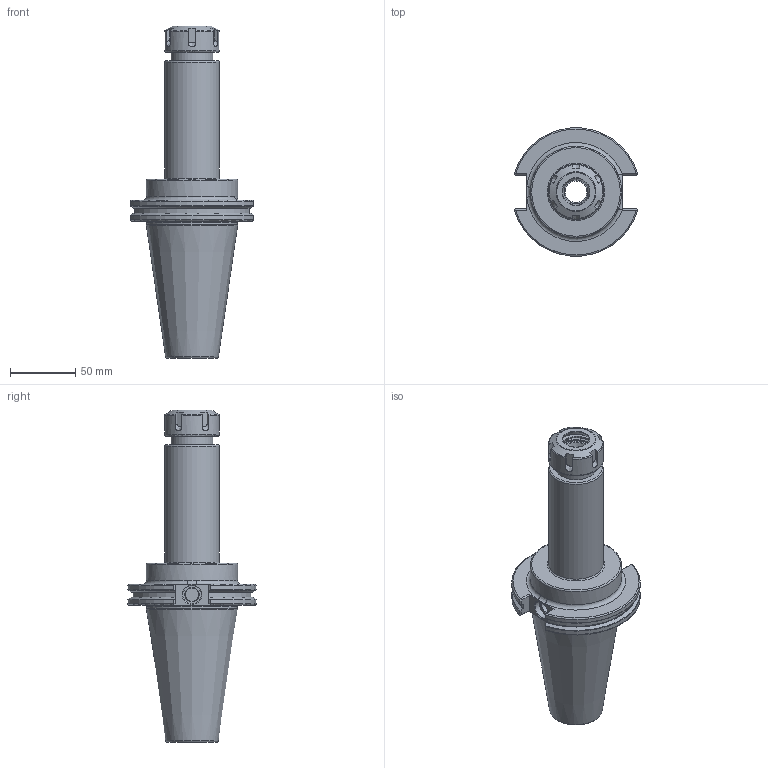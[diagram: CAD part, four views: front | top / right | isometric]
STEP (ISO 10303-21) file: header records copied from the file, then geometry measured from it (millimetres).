
FILE_DESCRIPTION(/* description */ (''),/* implementation_level */ '2;1');
FILE_NAME(/* name */ 'CAT50-ER25-6''''_asm1.prt.stp',/* time_stamp */ '2020-04-11T17:37:09+08:00',/* author */ (''),/* organization */ (''),/* preprocessor_version */ 'ST-DEVELOPER v16',/* originating_system */ 'SIEMENS PLM Software NX 10.0',/* authorisation */ '');
FILE_SCHEMA (('CONFIG_CONTROL_DESIGN'));
Length unit declared in the file: millimetre
Products named in the file (3): CAT50-ER25-6''; ER25UM压帽; CAT50-ER25-6''_asm1
Assembly tree (2 placements, depth 2):
  CAT50-ER25-6''_asm1
    ER25UM压帽
    CAT50-ER25-6''
Bounding box: 94.4 x 98.07 x 254 mm (x, y, z)
Volume: 495729.8 mm3; surface area: 74110.6 mm2
Topology: 2 solids, 2 shells, 150 faces, 400 edges, 265 vertices
Faces by surface type: plane 72, torus 27, cylinder 24, cone 19, bspline 8
Full cylindrical faces by diameter (mm): 10 x1, 14 x1, 16.5 x1, 18.3 x1, 20.7 x1, 22.225 x1, 25.7 x1, 26.19 x1, 29 x1, 30.376 x1, 30.5 x1, 32 x1, 32.5 x1, 42 x2, 69 x1, 69.85 x1
Entity records: 5358 total; most frequent: CARTESIAN_POINT 1564, ORIENTED_EDGE 732, DIRECTION 690, EDGE_CURVE 366, AXIS2_PLACEMENT_3D 274, VERTEX_POINT 259, EDGE_LOOP 193, ADVANCED_FACE 150
